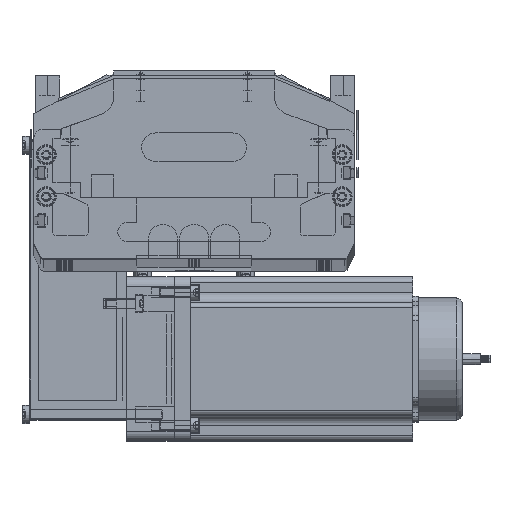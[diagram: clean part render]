
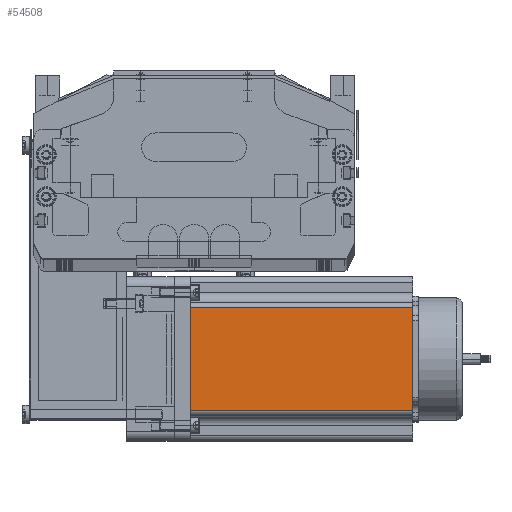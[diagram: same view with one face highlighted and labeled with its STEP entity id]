
A CAD part, top view. The second image highlights one B-rep face of the part: STEP entity #54508.
In plain terms, the highlighted planar face has unit normal (0, 0, 1) as drawn and (0, -1, 0) by its records, which use the part's own axes.
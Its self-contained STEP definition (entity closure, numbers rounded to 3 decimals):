
#32685 = CARTESIAN_POINT ( 'NONE',  ( 16.16, 0., 116.5 ) ) ;
#32885 = CARTESIAN_POINT ( 'NONE',  ( 16.16, 0., 0. ) ) ;
#33117 = CARTESIAN_POINT ( 'NONE',  ( 69.74, 0., 116.5 ) ) ;
#33120 = CARTESIAN_POINT ( 'NONE',  ( 69.74, 0., 0. ) ) ;
#33223 = DIRECTION ( 'NONE',  ( 0., 0., 1. ) ) ;
#33224 = DIRECTION ( 'NONE',  ( 0., 1., 0. ) ) ;
#33238 = CARTESIAN_POINT ( 'NONE',  ( 0., 0., 116.5 ) ) ;
#33240 = PLANE ( 'NONE',  #33249 ) ;
#33249 = AXIS2_PLACEMENT_3D ( 'NONE', #33238, #33224, #33223 ) ;
#33254 = FACE_OUTER_BOUND ( 'NONE', #54344, .T. ) ;
#33313 = DIRECTION ( 'NONE',  ( 0., 0., -1. ) ) ;
#33314 = VECTOR ( 'NONE', #33313, 1000. ) ;
#33315 = CARTESIAN_POINT ( 'NONE',  ( 16.16, 0., 116.5 ) ) ;
#33317 = LINE ( 'NONE', #33315, #33314 ) ;
#33320 = DIRECTION ( 'NONE',  ( 1., 0., 0. ) ) ;
#33321 = VECTOR ( 'NONE', #33320, 1000. ) ;
#33322 = CARTESIAN_POINT ( 'NONE',  ( 0., 0., 0. ) ) ;
#33326 = LINE ( 'NONE', #33322, #33321 ) ;
#33348 = DIRECTION ( 'NONE',  ( 0., 0., 1. ) ) ;
#33350 = VECTOR ( 'NONE', #33348, 1000. ) ;
#33360 = CARTESIAN_POINT ( 'NONE',  ( 69.74, 0., 116.5 ) ) ;
#33362 = LINE ( 'NONE', #33360, #33350 ) ;
#54327 = ORIENTED_EDGE ( 'NONE', *, *, #54739, .F. ) ;
#54339 = VERTEX_POINT ( 'NONE', #32685 ) ;
#54344 = EDGE_LOOP ( 'NONE', ( #54525, #54516, #54327, #54587 ) ) ;
#54379 = VERTEX_POINT ( 'NONE', #32885 ) ;
#54455 = VERTEX_POINT ( 'NONE', #33120 ) ;
#54458 = VERTEX_POINT ( 'NONE', #33117 ) ;
#54508 = ADVANCED_FACE ( 'NONE', ( #33254 ), #33240, .F. ) ;
#54516 = ORIENTED_EDGE ( 'NONE', *, *, #54531, .T. ) ;
#54525 = ORIENTED_EDGE ( 'NONE', *, *, #54543, .T. ) ;
#54531 = EDGE_CURVE ( 'NONE', #54455, #54458, #33362, .T. ) ;
#54543 = EDGE_CURVE ( 'NONE', #54379, #54455, #33326, .T. ) ;
#54546 = EDGE_CURVE ( 'NONE', #54339, #54379, #33317, .T. ) ;
#54587 = ORIENTED_EDGE ( 'NONE', *, *, #54546, .T. ) ;
#54739 = EDGE_CURVE ( 'NONE', #54339, #54458, #63852, .T. ) ;
#63846 = DIRECTION ( 'NONE',  ( 1., 0., 0. ) ) ;
#63849 = VECTOR ( 'NONE', #63846, 1000. ) ;
#63850 = CARTESIAN_POINT ( 'NONE',  ( 0., 0., 116.5 ) ) ;
#63852 = LINE ( 'NONE', #63850, #63849 ) ;
